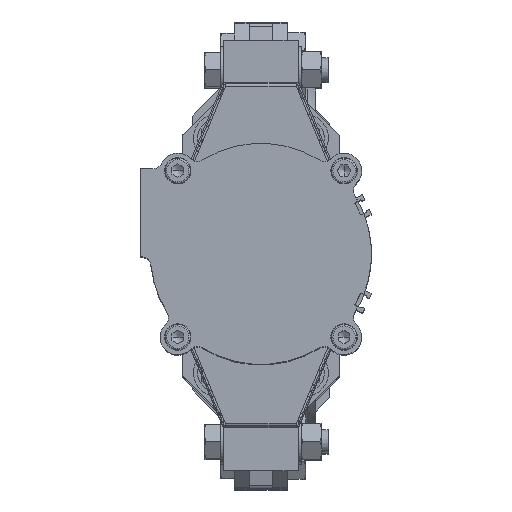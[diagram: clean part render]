
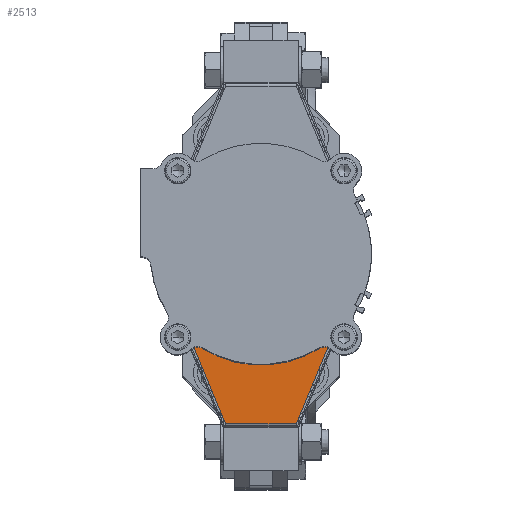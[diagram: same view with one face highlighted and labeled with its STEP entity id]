
A CAD part, top view. The second image highlights one B-rep face of the part: STEP entity #2513.
In plain terms, the highlighted planar face has unit normal (0, 0, 1).
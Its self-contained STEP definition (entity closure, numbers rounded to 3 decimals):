
#2513=ADVANCED_FACE('',(#7467),#7468,.F.);
#7467=FACE_OUTER_BOUND('',#12835,.T.);
#7468=PLANE('',#12836);
#12835=EDGE_LOOP('',(#31191,#31192,#31193,#31194,#31195,#31196));
#12836=AXIS2_PLACEMENT_3D('',#31197,#31198,#31199);
#31191=ORIENTED_EDGE('',*,*,#39387,.T.);
#31192=ORIENTED_EDGE('',*,*,#39423,.T.);
#31193=ORIENTED_EDGE('',*,*,#39397,.T.);
#31194=ORIENTED_EDGE('',*,*,#39428,.T.);
#31195=ORIENTED_EDGE('',*,*,#39429,.T.);
#31196=ORIENTED_EDGE('',*,*,#39425,.T.);
#31197=CARTESIAN_POINT('',(26.816,-64.036,355.75));
#31198=DIRECTION('',(0.,0.,-1.));
#31199=DIRECTION('',(0.,1.,0.));
#39387=EDGE_CURVE('',#49285,#49286,#49287,.T.);
#39397=EDGE_CURVE('',#49304,#49302,#49305,.T.);
#39423=EDGE_CURVE('',#49286,#49304,#49338,.T.);
#39425=EDGE_CURVE('',#49340,#49285,#49341,.T.);
#39428=EDGE_CURVE('',#49302,#49343,#49345,.T.);
#39429=EDGE_CURVE('',#49343,#49340,#49346,.T.);
#49285=VERTEX_POINT('',#71213);
#49286=VERTEX_POINT('',#71214);
#49287=LINE('',#71215,#71216);
#49302=VERTEX_POINT('',#71239);
#49304=VERTEX_POINT('',#71242);
#49305=LINE('',#71243,#71244);
#49338=LINE('',#71294,#71295);
#49340=VERTEX_POINT('',#71298);
#49341=LINE('',#71299,#71300);
#49343=VERTEX_POINT('',#71303);
#49345=LINE('',#71306,#71307);
#49346=LINE('',#71308,#71309);
#71213=CARTESIAN_POINT('',(-35.5,-44.261,355.75));
#71214=CARTESIAN_POINT('',(-18.131,-86.261,355.75));
#71215=CARTESIAN_POINT('',(-23.116,-74.208,355.75));
#71216=VECTOR('',#82094,10.);
#71239=CARTESIAN_POINT('',(35.5,-44.261,355.75));
#71242=CARTESIAN_POINT('',(18.131,-86.261,355.75));
#71243=CARTESIAN_POINT('',(27.032,-64.738,355.75));
#71244=VECTOR('',#82104,10.);
#71294=CARTESIAN_POINT('',(35.5,-86.261,355.75));
#71295=VECTOR('',#82146,10.);
#71298=CARTESIAN_POINT('',(-35.5,-41.811,355.75));
#71299=CARTESIAN_POINT('',(-35.5,-86.261,355.75));
#71300=VECTOR('',#82148,10.);
#71303=CARTESIAN_POINT('',(35.5,-41.811,355.75));
#71306=CARTESIAN_POINT('',(35.5,-41.811,355.75));
#71307=VECTOR('',#82151,10.);
#71308=CARTESIAN_POINT('',(-35.5,-41.811,355.75));
#71309=VECTOR('',#82152,10.);
#82094=DIRECTION('',(0.382,-0.924,0.));
#82104=DIRECTION('',(0.382,0.924,0.));
#82146=DIRECTION('',(1.,0.,0.));
#82148=DIRECTION('',(0.,-1.,0.));
#82151=DIRECTION('',(0.,1.,0.));
#82152=DIRECTION('',(-1.,0.,0.));
